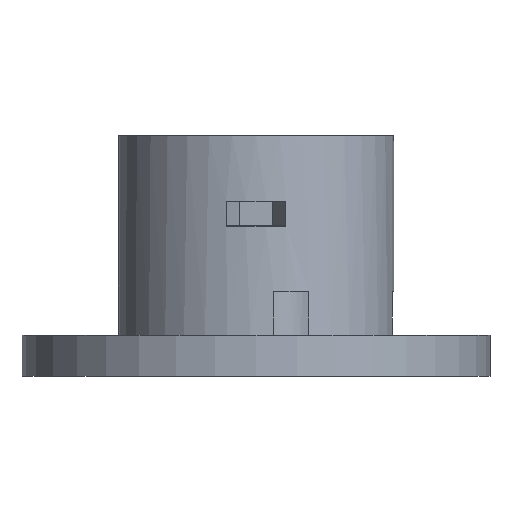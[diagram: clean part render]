
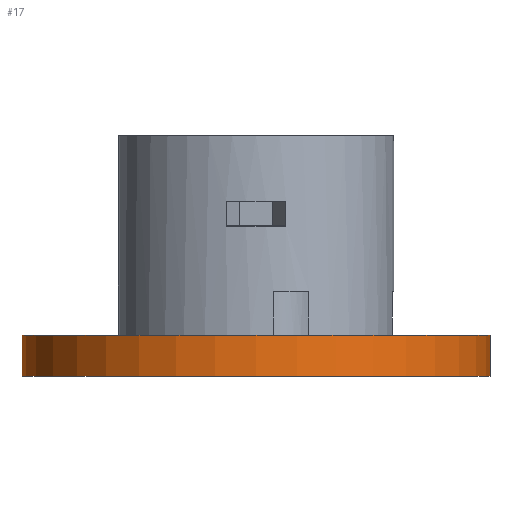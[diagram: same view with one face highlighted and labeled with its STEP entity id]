
A CAD part, front view. The second image highlights one B-rep face of the part: STEP entity #17.
In plain terms, the highlighted cylindrical face has radius 17 mm (diameter 34 mm), a full revolution.
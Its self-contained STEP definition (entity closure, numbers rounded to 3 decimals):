
#17 = ADVANCED_FACE('',(#18),#31,.T.);
#18 = FACE_BOUND('',#19,.T.);
#19 = EDGE_LOOP('',(#20,#54,#77,#104));
#20 = ORIENTED_EDGE('',*,*,#21,.F.);
#21 = EDGE_CURVE('',#22,#22,#24,.T.);
#22 = VERTEX_POINT('',#23);
#23 = CARTESIAN_POINT('',(4.,0.,-35.));
#24 = SURFACE_CURVE('',#25,(#30,#42),.PCURVE_S1.);
#25 = CIRCLE('',#26,17.);
#26 = AXIS2_PLACEMENT_3D('',#27,#28,#29);
#27 = CARTESIAN_POINT('',(-13.,0.,-35.));
#28 = DIRECTION('',(0.,0.,1.));
#29 = DIRECTION('',(1.,0.,-0.));
#30 = PCURVE('',#31,#36);
#31 = CYLINDRICAL_SURFACE('',#32,17.);
#32 = AXIS2_PLACEMENT_3D('',#33,#34,#35);
#33 = CARTESIAN_POINT('',(-13.,0.,-38.));
#34 = DIRECTION('',(0.,0.,1.));
#35 = DIRECTION('',(1.,0.,-0.));
#36 = DEFINITIONAL_REPRESENTATION('',(#37),#41);
#37 = LINE('',#38,#39);
#38 = CARTESIAN_POINT('',(0.,3.));
#39 = VECTOR('',#40,1.);
#40 = DIRECTION('',(1.,0.));
#41 = ( GEOMETRIC_REPRESENTATION_CONTEXT(2) 
PARAMETRIC_REPRESENTATION_CONTEXT() REPRESENTATION_CONTEXT('2D SPACE',''
  ) );
#42 = PCURVE('',#43,#48);
#43 = PLANE('',#44);
#44 = AXIS2_PLACEMENT_3D('',#45,#46,#47);
#45 = CARTESIAN_POINT('',(-13.,0.,-35.));
#46 = DIRECTION('',(0.,0.,1.));
#47 = DIRECTION('',(1.,0.,-0.));
#48 = DEFINITIONAL_REPRESENTATION('',(#49),#53);
#49 = CIRCLE('',#50,17.);
#50 = AXIS2_PLACEMENT_2D('',#51,#52);
#51 = CARTESIAN_POINT('',(0.,0.));
#52 = DIRECTION('',(1.,0.));
#53 = ( GEOMETRIC_REPRESENTATION_CONTEXT(2) 
PARAMETRIC_REPRESENTATION_CONTEXT() REPRESENTATION_CONTEXT('2D SPACE',''
  ) );
#54 = ORIENTED_EDGE('',*,*,#55,.F.);
#55 = EDGE_CURVE('',#56,#22,#58,.T.);
#56 = VERTEX_POINT('',#57);
#57 = CARTESIAN_POINT('',(4.,0.,-38.));
#58 = SEAM_CURVE('',#59,(#63,#70),.PCURVE_S1.);
#59 = LINE('',#60,#61);
#60 = CARTESIAN_POINT('',(4.,0.,-38.));
#61 = VECTOR('',#62,1.);
#62 = DIRECTION('',(0.,0.,1.));
#63 = PCURVE('',#31,#64);
#64 = DEFINITIONAL_REPRESENTATION('',(#65),#69);
#65 = LINE('',#66,#67);
#66 = CARTESIAN_POINT('',(6.283,-0.));
#67 = VECTOR('',#68,1.);
#68 = DIRECTION('',(0.,1.));
#69 = ( GEOMETRIC_REPRESENTATION_CONTEXT(2) 
PARAMETRIC_REPRESENTATION_CONTEXT() REPRESENTATION_CONTEXT('2D SPACE',''
  ) );
#70 = PCURVE('',#31,#71);
#71 = DEFINITIONAL_REPRESENTATION('',(#72),#76);
#72 = LINE('',#73,#74);
#73 = CARTESIAN_POINT('',(0.,-0.));
#74 = VECTOR('',#75,1.);
#75 = DIRECTION('',(0.,1.));
#76 = ( GEOMETRIC_REPRESENTATION_CONTEXT(2) 
PARAMETRIC_REPRESENTATION_CONTEXT() REPRESENTATION_CONTEXT('2D SPACE',''
  ) );
#77 = ORIENTED_EDGE('',*,*,#78,.T.);
#78 = EDGE_CURVE('',#56,#56,#79,.T.);
#79 = SURFACE_CURVE('',#80,(#85,#92),.PCURVE_S1.);
#80 = CIRCLE('',#81,17.);
#81 = AXIS2_PLACEMENT_3D('',#82,#83,#84);
#82 = CARTESIAN_POINT('',(-13.,0.,-38.));
#83 = DIRECTION('',(0.,0.,1.));
#84 = DIRECTION('',(1.,0.,-0.));
#85 = PCURVE('',#31,#86);
#86 = DEFINITIONAL_REPRESENTATION('',(#87),#91);
#87 = LINE('',#88,#89);
#88 = CARTESIAN_POINT('',(0.,0.));
#89 = VECTOR('',#90,1.);
#90 = DIRECTION('',(1.,0.));
#91 = ( GEOMETRIC_REPRESENTATION_CONTEXT(2) 
PARAMETRIC_REPRESENTATION_CONTEXT() REPRESENTATION_CONTEXT('2D SPACE',''
  ) );
#92 = PCURVE('',#93,#98);
#93 = PLANE('',#94);
#94 = AXIS2_PLACEMENT_3D('',#95,#96,#97);
#95 = CARTESIAN_POINT('',(-13.,0.,-38.));
#96 = DIRECTION('',(0.,0.,1.));
#97 = DIRECTION('',(1.,0.,-0.));
#98 = DEFINITIONAL_REPRESENTATION('',(#99),#103);
#99 = CIRCLE('',#100,17.);
#100 = AXIS2_PLACEMENT_2D('',#101,#102);
#101 = CARTESIAN_POINT('',(0.,0.));
#102 = DIRECTION('',(1.,0.));
#103 = ( GEOMETRIC_REPRESENTATION_CONTEXT(2) 
PARAMETRIC_REPRESENTATION_CONTEXT() REPRESENTATION_CONTEXT('2D SPACE',''
  ) );
#104 = ORIENTED_EDGE('',*,*,#55,.T.);
